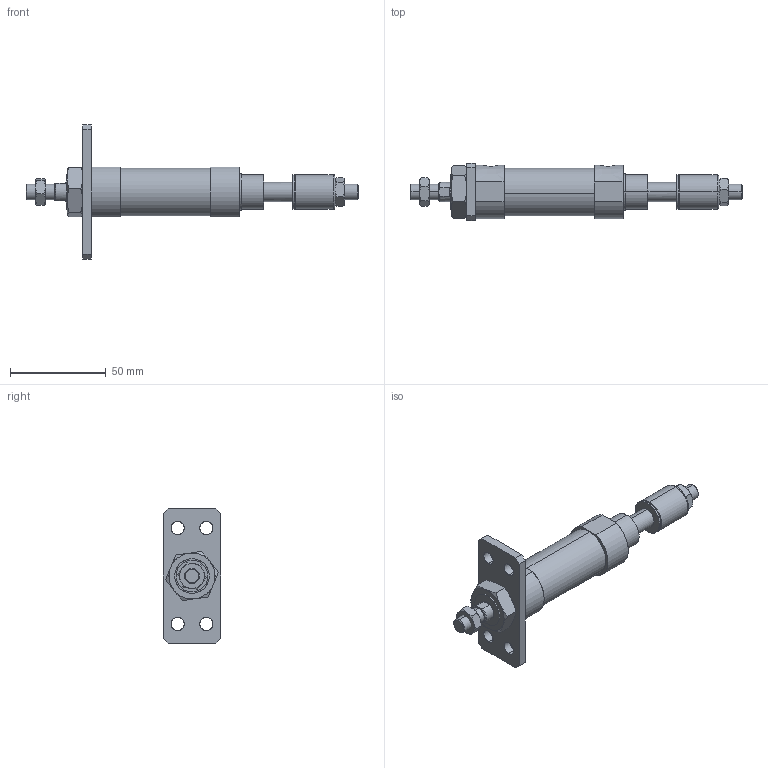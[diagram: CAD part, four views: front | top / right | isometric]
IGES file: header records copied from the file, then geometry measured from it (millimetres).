
Start section: SolidWorks IGES file using analytic representation for surfaces
Global section: file name: C:\Users\Toshiba\Desktop\JGA7-20-15-A.IGS; native system: SolidWorks 2014; preprocessor: SolidWorks 2014; author: Toshiba; date: 160420.091907; units: millimetre
Bounding box: 173 x 30 x 70 mm (x, y, z)
Surface area: 23638.7 mm2 (no closed solid volume)
Topology: 0 solids, 0 shells, 165 faces, 3044 edges, 3044 vertices
Faces by surface type: bspline 105, revolution 60
